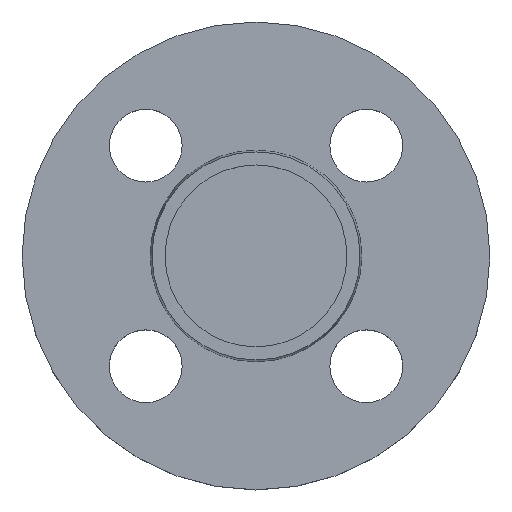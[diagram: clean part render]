
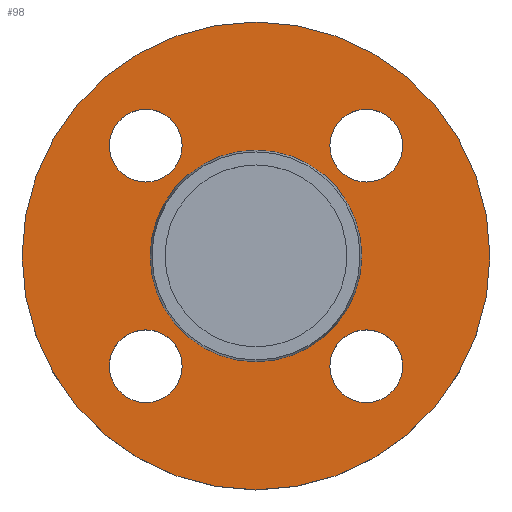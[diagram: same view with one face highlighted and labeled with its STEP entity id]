
A CAD part, top view. The second image highlights one B-rep face of the part: STEP entity #98.
In plain terms, the highlighted planar face has unit normal (0, 0, 1).
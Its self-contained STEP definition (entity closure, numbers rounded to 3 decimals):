
#15 = CIRCLE ( 'NONE', #16, 7. ) ;
#16 = AXIS2_PLACEMENT_3D ( 'NONE', #743, #747, #749 ) ;
#27 = AXIS2_PLACEMENT_3D ( 'NONE', #368, #369, #370 ) ;
#29 = CIRCLE ( 'NONE', #27, 7. ) ;
#40 = CIRCLE ( 'NONE', #554, 7. ) ;
#56 = EDGE_CURVE ( 'NONE', #671, #562, #464, .T. ) ;
#68 = CARTESIAN_POINT ( 'NONE',  ( 28.213, 21.213, -2. ) ) ;
#70 = CARTESIAN_POINT ( 'NONE',  ( 14.213, -21.213, -2. ) ) ;
#74 = EDGE_CURVE ( 'NONE', #704, #719, #15, .T. ) ;
#77 = CARTESIAN_POINT ( 'NONE',  ( 14.213, 21.213, -2. ) ) ;
#80 = AXIS2_PLACEMENT_3D ( 'NONE', #805, #807, #808 ) ;
#90 = CARTESIAN_POINT ( 'NONE',  ( 45., 0., -2. ) ) ;
#94 = CIRCLE ( 'NONE', #80, 45. ) ;
#95 = AXIS2_PLACEMENT_3D ( 'NONE', #739, #741, #742 ) ;
#96 = CARTESIAN_POINT ( 'NONE',  ( -14.213, 21.213, -2. ) ) ;
#97 = CIRCLE ( 'NONE', #100, 45. ) ;
#98 = ADVANCED_FACE ( 'NONE', ( #760, #761, #763, #764, #765, #766 ), #767, .T. ) ;
#100 = AXIS2_PLACEMENT_3D ( 'NONE', #814, #815, #816 ) ;
#102 = CIRCLE ( 'NONE', #103, 20.353 ) ;
#103 = AXIS2_PLACEMENT_3D ( 'NONE', #823, #824, #825 ) ;
#105 = CARTESIAN_POINT ( 'NONE',  ( -45., 0., -2. ) ) ;
#106 = CARTESIAN_POINT ( 'NONE',  ( -14.213, -21.213, -2. ) ) ;
#108 = CARTESIAN_POINT ( 'NONE',  ( 28.213, -21.213, -2. ) ) ;
#114 = CARTESIAN_POINT ( 'NONE',  ( 20.353, 0., -2. ) ) ;
#126 = CARTESIAN_POINT ( 'NONE',  ( -28.213, 21.213, -2. ) ) ;
#134 = CIRCLE ( 'NONE', #556, 7. ) ;
#152 = CIRCLE ( 'NONE', #156, 7. ) ;
#156 = AXIS2_PLACEMENT_3D ( 'NONE', #302, #303, #305 ) ;
#158 = EDGE_CURVE ( 'NONE', #685, #615, #94, .T. ) ;
#166 = DIRECTION ( 'NONE',  ( 1., 0., 0. ) ) ;
#167 = DIRECTION ( 'NONE',  ( 0., 0., -1. ) ) ;
#168 = CARTESIAN_POINT ( 'NONE',  ( -21.213, -21.213, -2. ) ) ;
#170 = EDGE_CURVE ( 'NONE', #615, #685, #97, .T. ) ;
#175 = CIRCLE ( 'NONE', #177, 7. ) ;
#177 = AXIS2_PLACEMENT_3D ( 'NONE', #312, #314, #315 ) ;
#184 = EDGE_CURVE ( 'NONE', #479, #595, #134, .T. ) ;
#190 = CARTESIAN_POINT ( 'NONE',  ( -28.213, -21.213, -2. ) ) ;
#201 = EDGE_CURVE ( 'NONE', #719, #704, #40, .T. ) ;
#203 = EDGE_CURVE ( 'NONE', #577, #475, #102, .T. ) ;
#234 = CARTESIAN_POINT ( 'NONE',  ( -20.353, 0., -2. ) ) ;
#251 = EDGE_CURVE ( 'NONE', #715, #590, #152, .T. ) ;
#255 = DIRECTION ( 'NONE',  ( 0., 0., -1. ) ) ;
#256 = DIRECTION ( 'NONE',  ( -1., 0., 0. ) ) ;
#264 = CARTESIAN_POINT ( 'NONE',  ( 0., 0., -2. ) ) ;
#272 = EDGE_CURVE ( 'NONE', #562, #671, #175, .T. ) ;
#302 = CARTESIAN_POINT ( 'NONE',  ( 21.213, -21.213, -2. ) ) ;
#303 = DIRECTION ( 'NONE',  ( 0., 0., -1. ) ) ;
#304 = EDGE_CURVE ( 'NONE', #590, #715, #29, .T. ) ;
#305 = DIRECTION ( 'NONE',  ( 1., 0., 0. ) ) ;
#312 = CARTESIAN_POINT ( 'NONE',  ( -21.213, 21.213, -2. ) ) ;
#314 = DIRECTION ( 'NONE',  ( 0., 0., -1. ) ) ;
#315 = DIRECTION ( 'NONE',  ( 1., 0., 0. ) ) ;
#357 = EDGE_CURVE ( 'NONE', #475, #577, #772, .T. ) ;
#368 = CARTESIAN_POINT ( 'NONE',  ( 21.213, -21.213, -2. ) ) ;
#369 = DIRECTION ( 'NONE',  ( 0., 0., -1. ) ) ;
#370 = DIRECTION ( 'NONE',  ( 1., 0., 0. ) ) ;
#446 = AXIS2_PLACEMENT_3D ( 'NONE', #768, #769, #770 ) ;
#457 = AXIS2_PLACEMENT_3D ( 'NONE', #168, #167, #166 ) ;
#461 = CIRCLE ( 'NONE', #457, 7. ) ;
#464 = CIRCLE ( 'NONE', #95, 7. ) ;
#475 = VERTEX_POINT ( 'NONE', #234 ) ;
#479 = VERTEX_POINT ( 'NONE', #190 ) ;
#515 = EDGE_CURVE ( 'NONE', #595, #479, #461, .T. ) ;
#526 = EDGE_LOOP ( 'NONE', ( #574, #579 ) ) ;
#533 = EDGE_LOOP ( 'NONE', ( #566, #567 ) ) ;
#554 = AXIS2_PLACEMENT_3D ( 'NONE', #820, #821, #822 ) ;
#555 = EDGE_LOOP ( 'NONE', ( #561, #565 ) ) ;
#556 = AXIS2_PLACEMENT_3D ( 'NONE', #817, #818, #819 ) ;
#558 = ORIENTED_EDGE ( 'NONE', *, *, #304, .T. ) ;
#560 = ORIENTED_EDGE ( 'NONE', *, *, #251, .T. ) ;
#561 = ORIENTED_EDGE ( 'NONE', *, *, #515, .T. ) ;
#562 = VERTEX_POINT ( 'NONE', #126 ) ;
#565 = ORIENTED_EDGE ( 'NONE', *, *, #184, .T. ) ;
#566 = ORIENTED_EDGE ( 'NONE', *, *, #56, .T. ) ;
#567 = ORIENTED_EDGE ( 'NONE', *, *, #272, .T. ) ;
#568 = ORIENTED_EDGE ( 'NONE', *, *, #201, .T. ) ;
#571 = ORIENTED_EDGE ( 'NONE', *, *, #74, .T. ) ;
#574 = ORIENTED_EDGE ( 'NONE', *, *, #357, .T. ) ;
#577 = VERTEX_POINT ( 'NONE', #114 ) ;
#579 = ORIENTED_EDGE ( 'NONE', *, *, #203, .T. ) ;
#581 = ORIENTED_EDGE ( 'NONE', *, *, #158, .F. ) ;
#582 = ORIENTED_EDGE ( 'NONE', *, *, #170, .F. ) ;
#590 = VERTEX_POINT ( 'NONE', #108 ) ;
#595 = VERTEX_POINT ( 'NONE', #106 ) ;
#615 = VERTEX_POINT ( 'NONE', #105 ) ;
#651 = AXIS2_PLACEMENT_3D ( 'NONE', #264, #255, #256 ) ;
#671 = VERTEX_POINT ( 'NONE', #96 ) ;
#680 = EDGE_LOOP ( 'NONE', ( #581, #582 ) ) ;
#685 = VERTEX_POINT ( 'NONE', #90 ) ;
#686 = EDGE_LOOP ( 'NONE', ( #568, #571 ) ) ;
#704 = VERTEX_POINT ( 'NONE', #77 ) ;
#715 = VERTEX_POINT ( 'NONE', #70 ) ;
#716 = EDGE_LOOP ( 'NONE', ( #558, #560 ) ) ;
#719 = VERTEX_POINT ( 'NONE', #68 ) ;
#739 = CARTESIAN_POINT ( 'NONE',  ( -21.213, 21.213, -2. ) ) ;
#741 = DIRECTION ( 'NONE',  ( 0., 0., -1. ) ) ;
#742 = DIRECTION ( 'NONE',  ( 1., 0., 0. ) ) ;
#743 = CARTESIAN_POINT ( 'NONE',  ( 21.213, 21.213, -2. ) ) ;
#747 = DIRECTION ( 'NONE',  ( 0., 0., -1. ) ) ;
#749 = DIRECTION ( 'NONE',  ( 1., 0., 0. ) ) ;
#760 = FACE_BOUND ( 'NONE', #716, .T. ) ;
#761 = FACE_BOUND ( 'NONE', #555, .T. ) ;
#763 = FACE_BOUND ( 'NONE', #533, .T. ) ;
#764 = FACE_BOUND ( 'NONE', #686, .T. ) ;
#765 = FACE_BOUND ( 'NONE', #526, .T. ) ;
#766 = FACE_OUTER_BOUND ( 'NONE', #680, .T. ) ;
#767 = PLANE ( 'NONE',  #446 ) ;
#768 = CARTESIAN_POINT ( 'NONE',  ( 20.353, 0., -2. ) ) ;
#769 = DIRECTION ( 'NONE',  ( 0., 0., 1. ) ) ;
#770 = DIRECTION ( 'NONE',  ( 1., 0., 0. ) ) ;
#772 = CIRCLE ( 'NONE', #651, 20.353 ) ;
#805 = CARTESIAN_POINT ( 'NONE',  ( 0., 0., -2. ) ) ;
#807 = DIRECTION ( 'NONE',  ( 0., 0., -1. ) ) ;
#808 = DIRECTION ( 'NONE',  ( -1., 0., 0. ) ) ;
#814 = CARTESIAN_POINT ( 'NONE',  ( 0., 0., -2. ) ) ;
#815 = DIRECTION ( 'NONE',  ( 0., 0., -1. ) ) ;
#816 = DIRECTION ( 'NONE',  ( -1., 0., 0. ) ) ;
#817 = CARTESIAN_POINT ( 'NONE',  ( -21.213, -21.213, -2. ) ) ;
#818 = DIRECTION ( 'NONE',  ( 0., 0., -1. ) ) ;
#819 = DIRECTION ( 'NONE',  ( 1., 0., 0. ) ) ;
#820 = CARTESIAN_POINT ( 'NONE',  ( 21.213, 21.213, -2. ) ) ;
#821 = DIRECTION ( 'NONE',  ( 0., 0., -1. ) ) ;
#822 = DIRECTION ( 'NONE',  ( 1., 0., 0. ) ) ;
#823 = CARTESIAN_POINT ( 'NONE',  ( 0., 0., -2. ) ) ;
#824 = DIRECTION ( 'NONE',  ( 0., 0., -1. ) ) ;
#825 = DIRECTION ( 'NONE',  ( -1., 0., 0. ) ) ;
